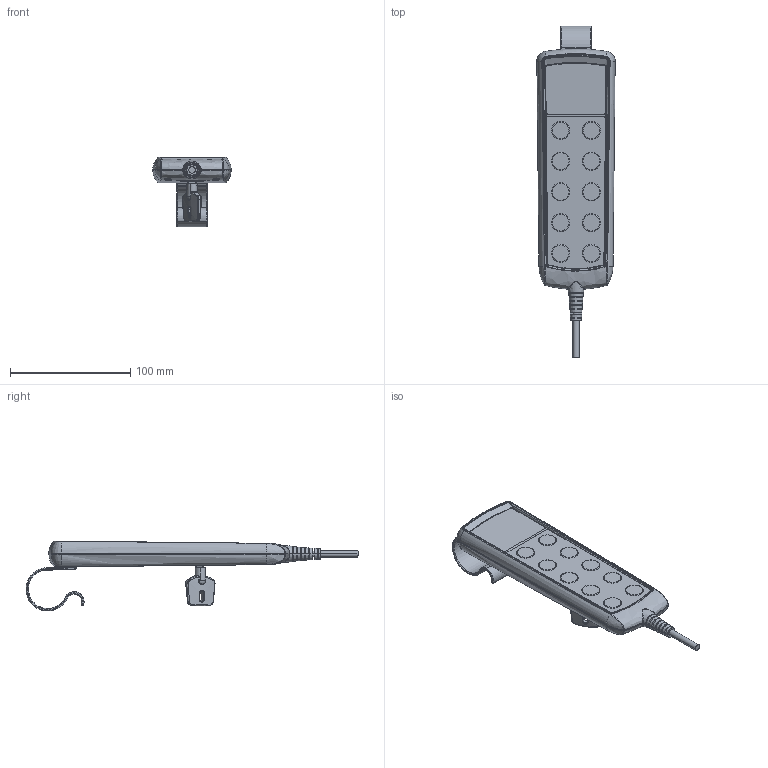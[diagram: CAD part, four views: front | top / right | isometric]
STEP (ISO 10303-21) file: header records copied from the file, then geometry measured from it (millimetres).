
FILE_DESCRIPTION (( 'STEP AP203' ), '1' );
FILE_NAME ('3D_TMH5.STEP', '2017-07-07T06:04:59', ( '' ), ( '' ), 'SwSTEP 2.0', 'SolidWorks 2015', '' );
FILE_SCHEMA (( 'CONFIG_CONTROL_DESIGN' ));
Length unit declared in the file: millimetre
Products named in the file (1): 3D_TMH5
Bounding box: 65.02 x 275.7 x 58.13 mm (x, y, z)
Surface area: 118527.2 mm2 (no closed solid volume)
Topology: 0 solids, 23 shells, 986 faces, 2485 edges, 1559 vertices
Faces by surface type: bspline 493, plane 203, cylinder 189, torus 58, sphere 25, cone 18
Entity records: 107388 total; most frequent: CARTESIAN_POINT 87752, ORIENTED_EDGE 4861, DIRECTION 2722, EDGE_CURVE 2449, VERTEX_POINT 1544, B_SPLINE_CURVE_WITH_KNOTS 1087, EDGE_LOOP 1040, AXIS2_PLACEMENT_3D 1000
